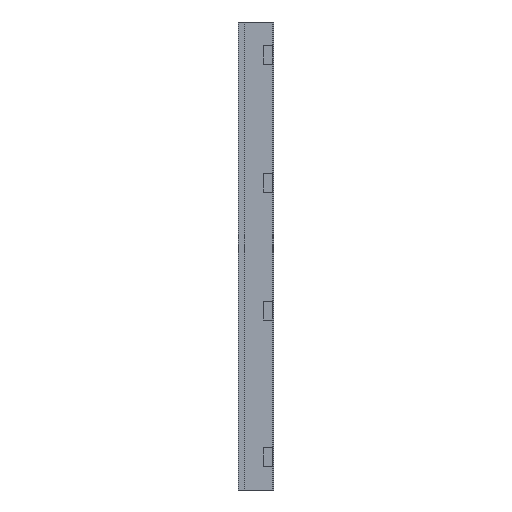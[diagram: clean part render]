
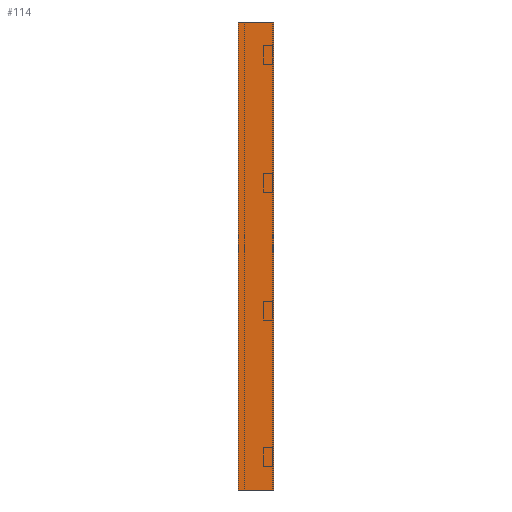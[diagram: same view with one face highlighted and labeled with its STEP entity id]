
A CAD part, left-side view. The second image highlights one B-rep face of the part: STEP entity #114.
In plain terms, the highlighted planar face has unit normal (-1, 0, 0).
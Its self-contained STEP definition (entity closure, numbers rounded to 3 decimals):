
#88 = VERTEX_POINT ( 'NONE', #436 ) ;
#114 = ADVANCED_FACE ( 'NONE', ( #815 ), #671, .T. ) ;
#131 = LINE ( 'NONE', #529, #545 ) ;
#170 = EDGE_CURVE ( 'NONE', #301, #88, #131, .T. ) ;
#191 = CARTESIAN_POINT ( 'NONE',  ( 0., 0., 0. ) ) ;
#214 = DIRECTION ( 'NONE',  ( 0., 0., 1. ) ) ;
#238 = VECTOR ( 'NONE', #482, 1000. ) ;
#268 = AXIS2_PLACEMENT_3D ( 'NONE', #1445, #1317, #1467 ) ;
#289 = EDGE_CURVE ( 'NONE', #88, #1547, #755, .T. ) ;
#301 = VERTEX_POINT ( 'NONE', #1007 ) ;
#309 = ORIENTED_EDGE ( 'NONE', *, *, #289, .F. ) ;
#394 = LINE ( 'NONE', #910, #1556 ) ;
#415 = DIRECTION ( 'NONE',  ( 0., 0., 1. ) ) ;
#424 = VECTOR ( 'NONE', #214, 1000. ) ;
#436 = CARTESIAN_POINT ( 'NONE',  ( 0., 75., 0. ) ) ;
#482 = DIRECTION ( 'NONE',  ( 0., -1., 0. ) ) ;
#529 = CARTESIAN_POINT ( 'NONE',  ( 0., 75., -1000. ) ) ;
#545 = VECTOR ( 'NONE', #415, 1000. ) ;
#671 = PLANE ( 'NONE',  #268 ) ;
#673 = EDGE_CURVE ( 'NONE', #301, #1497, #394, .T. ) ;
#741 = ORIENTED_EDGE ( 'NONE', *, *, #673, .T. ) ;
#755 = LINE ( 'NONE', #1031, #238 ) ;
#815 = FACE_OUTER_BOUND ( 'NONE', #1310, .T. ) ;
#910 = CARTESIAN_POINT ( 'NONE',  ( 0., 0., -1000. ) ) ;
#1004 = LINE ( 'NONE', #1526, #424 ) ;
#1007 = CARTESIAN_POINT ( 'NONE',  ( 0., 75., -1000. ) ) ;
#1012 = ORIENTED_EDGE ( 'NONE', *, *, #1629, .T. ) ;
#1031 = CARTESIAN_POINT ( 'NONE',  ( 0., 0., 0. ) ) ;
#1086 = CARTESIAN_POINT ( 'NONE',  ( 0., 0., -1000. ) ) ;
#1310 = EDGE_LOOP ( 'NONE', ( #309, #1550, #741, #1012 ) ) ;
#1317 = DIRECTION ( 'NONE',  ( -1., 0., 0. ) ) ;
#1445 = CARTESIAN_POINT ( 'NONE',  ( 0., 0., -1000. ) ) ;
#1467 = DIRECTION ( 'NONE',  ( 0., 0., 1. ) ) ;
#1481 = DIRECTION ( 'NONE',  ( 0., -1., 0. ) ) ;
#1497 = VERTEX_POINT ( 'NONE', #1086 ) ;
#1526 = CARTESIAN_POINT ( 'NONE',  ( 0., 0., -1000. ) ) ;
#1547 = VERTEX_POINT ( 'NONE', #191 ) ;
#1550 = ORIENTED_EDGE ( 'NONE', *, *, #170, .F. ) ;
#1556 = VECTOR ( 'NONE', #1481, 1000. ) ;
#1629 = EDGE_CURVE ( 'NONE', #1497, #1547, #1004, .T. ) ;
